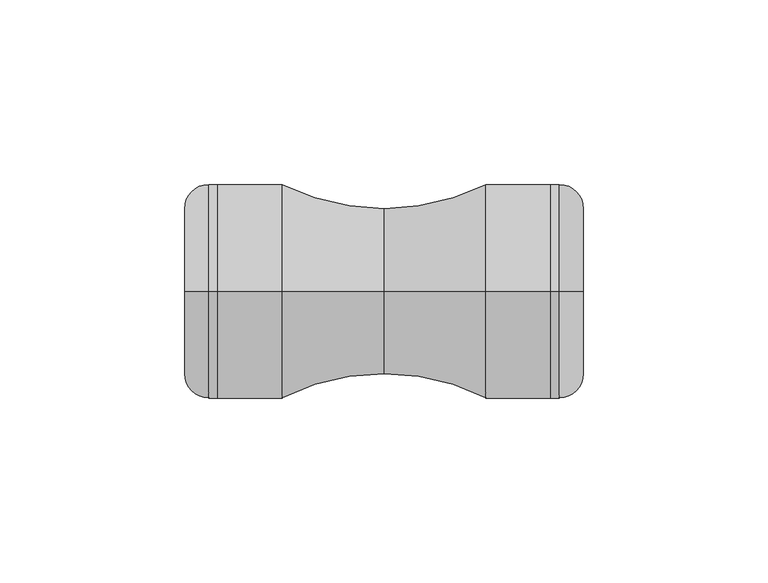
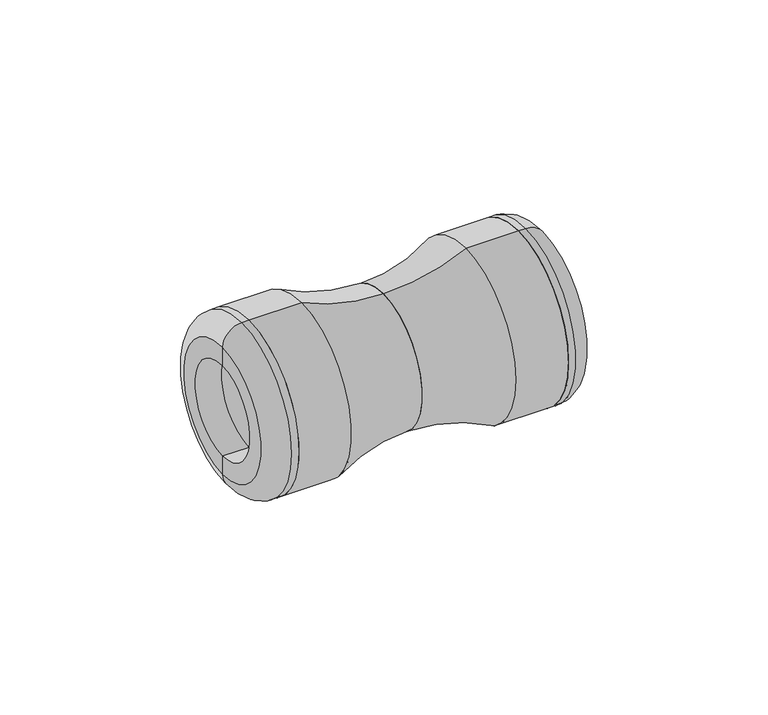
"""IFC4 building model written with IfcOpenShell, lengths in millimetres: pipe fitting geometry, Plumbing_Pipe-Fittings_Plasson_Coupler_1001 : Plumbing_Pipe-Fittings_Plasson_Coupler_1001."""

from ifc_helpers import new_model, si_unit, point, frame, origin, place, context, project, spatial, polyline, circle_curve, ellipse_curve, trimmed, source, transform, mapped, element, save
from ifc_brep_helpers import plane_surface, cylinder_surface, revolved_surface, advanced_brep


def pipe_fitting_73e57031(model_context):
    return source(origin(), model_context, "Body", "AdvancedBrep", [
        advanced_brep(
        [(54.0, 0.0, -16.0), (54.0, 0.0, 16.0), (45.1666667, 0.0, 16.0), (45.1666667, 0.0, -16.0), (54.0, 0.0, -22.5), (54.0, 0.0, 22.5), (47.5, 0.0, -29.0), (47.5, 0.0, 29.0), (45.1666667, 0.0, -29.0), (45.1666667, 0.0, 29.0)],
        [
            (0, 1, circle_curve(frame((54.0, 0.0, 0.0), z_axis=(1.0, 0.0, 0.0), x_axis=(0.0, 0.0, 1.0)), 16.0)),
            (1, 2),
            (2, 3, circle_curve(frame((45.1666667, 0.0, 0.0), z_axis=(-1.0, 0.0, 0.0), x_axis=(0.0, 0.0, 1.0)), 16.0)),
            (3, 0),
            (1, 0, circle_curve(frame((54.0, 0.0, 0.0), z_axis=(1.0, 0.0, 0.0), x_axis=(0.0, 0.0, 1.0)), 16.0)),
            (3, 2, circle_curve(frame((45.1666667, 0.0, 0.0), z_axis=(-1.0, 0.0, 0.0), x_axis=(0.0, 0.0, 1.0)), 16.0)),
            (4, 5, circle_curve(frame((54.0, 0.0, 0.0), z_axis=(1.0, 0.0, 0.0), x_axis=(0.0, 0.0, 1.0)), 22.5)),
            (5, 1),
            (0, 4),
            (5, 4, circle_curve(frame((54.0, 0.0, 0.0), z_axis=(1.0, 0.0, 0.0), x_axis=(0.0, 0.0, 1.0)), 22.5)),
            (6, 7, circle_curve(frame((47.5, 0.0, 0.0), z_axis=(1.0, 0.0, 0.0), x_axis=(0.0, 0.0, 1.0)), 29.0)),
            (7, 5, circle_curve(frame((47.5, 0.0, 22.5), z_axis=(0.0, 1.0, 0.0), x_axis=(1.0, 0.0, 0.0)), 6.5)),
            (4, 6, circle_curve(frame((47.5, 0.0, -22.5), z_axis=(0.0, 1.0, 0.0), x_axis=(1.0, 0.0, 0.0)), 6.5)),
            (7, 6, circle_curve(frame((47.5, 0.0, 0.0), z_axis=(1.0, 0.0, 0.0), x_axis=(0.0, 0.0, 1.0)), 29.0)),
            (8, 9, circle_curve(frame((45.1666667, 0.0, 0.0), z_axis=(1.0, 0.0, 0.0), x_axis=(0.0, 0.0, 1.0)), 29.0)),
            (9, 7),
            (6, 8),
            (9, 8, circle_curve(frame((45.1666667, 0.0, 0.0), z_axis=(1.0, 0.0, 0.0), x_axis=(0.0, 0.0, 1.0)), 29.0)),
            (2, 9),
            (8, 3),
        ],
        [
            revolved_surface(polyline([(45.1666667, 0.0, 16.0), (54.0, 0.0, 16.0)]), (33.9471637, 0.0, 0.0), (-1.0, 0.0, 0.0)),
            plane_surface(frame((54.0, 0.0, 0.0), z_axis=(1.0, 0.0, 0.0), x_axis=(0.0, 0.0, 1.0))),
            revolved_surface(trimmed(ellipse_curve(frame((47.5, 0.0, 22.5), z_axis=(0.0, -1.0, 0.0), x_axis=(1.0, 0.0, 0.0)), 6.5, 6.5), [point((54.0, 0.0, 22.5))], [point((47.5, 0.0, 29.0))], True, "CARTESIAN"), (33.9471637, 0.0, 0.0), (-1.0, 0.0, 0.0)),
            cylinder_surface(frame((33.9471637, 0.0, 0.0), z_axis=(-1.0, 0.0, 0.0), x_axis=(0.0, 0.0, 1.0)), 29.0),
            plane_surface(frame((45.1666667, 0.0, 0.0), z_axis=(-1.0, 0.0, 0.0), x_axis=(0.0, 0.0, 1.0))),
        ],
        [
            (0, [[1, 2, 3, 4]]),
            (0, [[5, -4, 6, -2]]),
            (1, [[7, 8, -1, 9]]),
            (1, [[10, -9, -5, -8]]),
            (2, [[11, 12, -7, 13]]),
            (2, [[14, -13, -10, -12]]),
            (3, [[15, 16, -11, 17]]),
            (3, [[18, -17, -14, -16]]),
            (4, [[-3, 19, -15, 20]]),
            (4, [[-6, -20, -18, -19]]),
        ],
    ),
        advanced_brep(
        [(-45.1666667, 0.0, -29.0), (-45.1666667, 0.0, 29.0), (-45.1666667, 0.0, 16.0), (-45.1666667, 0.0, -16.0), (-47.5, 0.0, -29.0), (-47.5, 0.0, 29.0), (-54.0, 0.0, -22.5), (-54.0, 0.0, 22.5), (-54.0, 0.0, -16.0), (-54.0, 0.0, 16.0)],
        [
            (0, 1, circle_curve(frame((-45.1666667, 0.0, 0.0), z_axis=(1.0, 0.0, 0.0), x_axis=(0.0, 0.0, 1.0)), 29.0)),
            (1, 2),
            (2, 3, circle_curve(frame((-45.1666667, 0.0, 0.0), z_axis=(-1.0, 0.0, 0.0), x_axis=(0.0, 0.0, 1.0)), 16.0)),
            (3, 0),
            (1, 0, circle_curve(frame((-45.1666667, 0.0, 0.0), z_axis=(1.0, 0.0, 0.0), x_axis=(0.0, 0.0, 1.0)), 29.0)),
            (3, 2, circle_curve(frame((-45.1666667, 0.0, 0.0), z_axis=(-1.0, 0.0, 0.0), x_axis=(0.0, 0.0, 1.0)), 16.0)),
            (4, 5, circle_curve(frame((-47.5, 0.0, 0.0), z_axis=(1.0, 0.0, 0.0), x_axis=(0.0, 0.0, 1.0)), 29.0)),
            (5, 1),
            (0, 4),
            (5, 4, circle_curve(frame((-47.5, 0.0, 0.0), z_axis=(1.0, 0.0, 0.0), x_axis=(0.0, 0.0, 1.0)), 29.0)),
            (6, 7, circle_curve(frame((-54.0, 0.0, 0.0), z_axis=(1.0, 0.0, 0.0), x_axis=(0.0, 0.0, 1.0)), 22.5)),
            (7, 5, circle_curve(frame((-47.5, 0.0, 22.5), z_axis=(0.0, 1.0, 0.0), x_axis=(1.0, 0.0, 0.0)), 6.5)),
            (4, 6, circle_curve(frame((-47.5, 0.0, -22.5), z_axis=(0.0, 1.0, 0.0), x_axis=(1.0, 0.0, 0.0)), 6.5)),
            (7, 6, circle_curve(frame((-54.0, 0.0, 0.0), z_axis=(1.0, 0.0, 0.0), x_axis=(0.0, 0.0, 1.0)), 22.5)),
            (8, 9, circle_curve(frame((-54.0, 0.0, 0.0), z_axis=(1.0, 0.0, 0.0), x_axis=(0.0, 0.0, 1.0)), 16.0)),
            (9, 7),
            (6, 8),
            (9, 8, circle_curve(frame((-54.0, 0.0, 0.0), z_axis=(1.0, 0.0, 0.0), x_axis=(0.0, 0.0, 1.0)), 16.0)),
            (2, 9),
            (8, 3),
        ],
        [
            plane_surface(frame((-45.1666667, 0.0, 0.0), z_axis=(1.0, 0.0, 0.0), x_axis=(0.0, 0.0, 1.0))),
            cylinder_surface(frame((-59.0, 0.0, 0.0), z_axis=(-1.0, 0.0, 0.0), x_axis=(0.0, 0.0, 1.0)), 29.0),
            revolved_surface(trimmed(ellipse_curve(frame((-47.5, 0.0, 22.5), z_axis=(0.0, -1.0, 0.0), x_axis=(1.0, 0.0, 0.0)), 6.5, 6.5), [point((-47.5, 0.0, 29.0))], [point((-54.0, 0.0, 22.5))], True, "CARTESIAN"), (-59.0, 0.0, 0.0), (-1.0, 0.0, 0.0)),
            plane_surface(frame((-54.0, 0.0, 0.0), z_axis=(-1.0, 0.0, 0.0), x_axis=(0.0, 0.0, 1.0))),
            revolved_surface(polyline([(-54.0, 0.0, 16.0), (-45.1666667, 0.0, 16.0)]), (-59.0, 0.0, 0.0), (-1.0, 0.0, 0.0)),
        ],
        [
            (0, [[1, 2, 3, 4]]),
            (0, [[5, -4, 6, -2]]),
            (1, [[7, 8, -1, 9]]),
            (1, [[10, -9, -5, -8]]),
            (2, [[11, 12, -7, 13]]),
            (2, [[14, -13, -10, -12]]),
            (3, [[15, 16, -11, 17]]),
            (3, [[18, -17, -14, -16]]),
            (4, [[-3, 19, -15, 20]]),
            (4, [[-6, -20, -18, -19]]),
        ],
    ),
        advanced_brep(
        [(27.5, 0.0, -29.0), (27.5, 0.0, 29.0), (45.1666667, 0.0, 29.0), (45.1666667, 0.0, -29.0), (0.0, 0.0, -22.5), (0.0, 0.0, 22.5), (0.0, 0.0, -14.0), (0.0, 0.0, 14.0), (1.0, 0.0, -14.0), (1.0, 0.0, 14.0), (1.0, 0.0, -16.0), (1.0, 0.0, 16.0), (45.1666667, 0.0, -16.0), (45.1666667, 0.0, 16.0)],
        [
            (0, 1, circle_curve(frame((27.5, 0.0, 0.0), z_axis=(1.0, 0.0, 0.0), x_axis=(0.0, 0.0, 1.0)), 29.0)),
            (1, 2),
            (2, 3, circle_curve(frame((45.1666667, 0.0, 0.0), z_axis=(-1.0, 0.0, 0.0), x_axis=(0.0, 0.0, 1.0)), 29.0)),
            (3, 0),
            (1, 0, circle_curve(frame((27.5, 0.0, 0.0), z_axis=(1.0, 0.0, 0.0), x_axis=(0.0, 0.0, 1.0)), 29.0)),
            (3, 2, circle_curve(frame((45.1666667, 0.0, 0.0), z_axis=(-1.0, 0.0, 0.0), x_axis=(0.0, 0.0, 1.0)), 29.0)),
            (4, 5, circle_curve(frame((0.0, 0.0, 0.0), z_axis=(1.0, 0.0, 0.0), x_axis=(0.0, 0.0, 1.0)), 22.5)),
            (5, 1, circle_curve(frame((0.0, 0.0, 83.9230769), z_axis=(0.0, -1.0, 0.0), x_axis=(1.0, 0.0, 0.0)), 61.4230769)),
            (0, 4, circle_curve(frame((0.0, 0.0, -83.9230769), z_axis=(0.0, -1.0, 0.0), x_axis=(1.0, 0.0, 0.0)), 61.4230769)),
            (5, 4, circle_curve(frame((0.0, 0.0, 0.0), z_axis=(1.0, 0.0, 0.0), x_axis=(0.0, 0.0, 1.0)), 22.5)),
            (6, 7, circle_curve(frame((0.0, 0.0, 0.0), z_axis=(1.0, 0.0, 0.0), x_axis=(0.0, 0.0, 1.0)), 14.0)),
            (7, 5),
            (4, 6),
            (7, 6, circle_curve(frame((0.0, 0.0, 0.0), z_axis=(1.0, 0.0, 0.0), x_axis=(0.0, 0.0, 1.0)), 14.0)),
            (8, 9, circle_curve(frame((1.0, 0.0, 0.0), z_axis=(1.0, 0.0, 0.0), x_axis=(0.0, 0.0, 1.0)), 14.0)),
            (9, 7),
            (6, 8),
            (9, 8, circle_curve(frame((1.0, 0.0, 0.0), z_axis=(1.0, 0.0, 0.0), x_axis=(0.0, 0.0, 1.0)), 14.0)),
            (10, 11, circle_curve(frame((1.0, 0.0, 0.0), z_axis=(1.0, 0.0, 0.0), x_axis=(0.0, 0.0, 1.0)), 16.0)),
            (11, 9),
            (8, 10),
            (11, 10, circle_curve(frame((1.0, 0.0, 0.0), z_axis=(1.0, 0.0, 0.0), x_axis=(0.0, 0.0, 1.0)), 16.0)),
            (12, 13, circle_curve(frame((45.1666667, 0.0, 0.0), z_axis=(1.0, 0.0, 0.0), x_axis=(0.0, 0.0, 1.0)), 16.0)),
            (13, 11),
            (10, 12),
            (13, 12, circle_curve(frame((45.1666667, 0.0, 0.0), z_axis=(1.0, 0.0, 0.0), x_axis=(0.0, 0.0, 1.0)), 16.0)),
            (2, 13),
            (12, 3),
        ],
        [
            cylinder_surface(frame((-10.0, 0.0, 0.0), z_axis=(-1.0, 0.0, 0.0), x_axis=(0.0, 0.0, 1.0)), 29.0),
            revolved_surface(trimmed(ellipse_curve(frame((0.0, 0.0, 83.9230769), z_axis=(0.0, 1.0, 0.0), x_axis=(1.0, 0.0, 0.0)), 61.4230769, 61.4230769), [point((27.5, 0.0, 29.0))], [point((0.0, 0.0, 22.5))], True, "CARTESIAN"), (-10.0, 0.0, 0.0), (-1.0, 0.0, 0.0)),
            plane_surface(frame((0.0, 0.0, 0.0), z_axis=(-1.0, 0.0, 0.0), x_axis=(0.0, 0.0, 1.0))),
            revolved_surface(polyline([(0.0, 0.0, 14.0), (1.0, 0.0, 14.0)]), (-10.0, 0.0, 0.0), (-1.0, 0.0, 0.0)),
            plane_surface(frame((1.0, 0.0, 0.0), z_axis=(1.0, 0.0, 0.0), x_axis=(0.0, 0.0, 1.0))),
            revolved_surface(polyline([(1.0, 0.0, 16.0), (45.1666667, 0.0, 16.0)]), (-10.0, 0.0, 0.0), (-1.0, 0.0, 0.0)),
            plane_surface(frame((45.1666667, 0.0, 0.0), z_axis=(1.0, 0.0, 0.0), x_axis=(0.0, 0.0, 1.0))),
        ],
        [
            (0, [[1, 2, 3, 4]]),
            (0, [[5, -4, 6, -2]]),
            (1, [[7, 8, -1, 9]]),
            (1, [[10, -9, -5, -8]]),
            (2, [[11, 12, -7, 13]]),
            (2, [[14, -13, -10, -12]]),
            (3, [[15, 16, -11, 17]]),
            (3, [[18, -17, -14, -16]]),
            (4, [[19, 20, -15, 21]]),
            (4, [[22, -21, -18, -20]]),
            (5, [[23, 24, -19, 25]]),
            (5, [[26, -25, -22, -24]]),
            (6, [[-3, 27, -23, 28]]),
            (6, [[-6, -28, -26, -27]]),
        ],
    ),
        advanced_brep(
        [(-45.1666667, 0.0, -16.0), (-45.1666667, 0.0, 16.0), (-45.1666667, 0.0, 29.0), (-45.1666667, 0.0, -29.0), (-1.0, 0.0, -16.0), (-1.0, 0.0, 16.0), (-1.0, 0.0, -14.0), (-1.0, 0.0, 14.0), (0.0, 0.0, -14.0), (0.0, 0.0, 14.0), (0.0, 0.0, -22.5), (0.0, 0.0, 22.5), (-27.5, 0.0, -29.0), (-27.5, 0.0, 29.0)],
        [
            (0, 1, circle_curve(frame((-45.1666667, 0.0, 0.0), z_axis=(1.0, 0.0, 0.0), x_axis=(0.0, 0.0, 1.0)), 16.0)),
            (1, 2),
            (2, 3, circle_curve(frame((-45.1666667, 0.0, 0.0), z_axis=(-1.0, 0.0, 0.0), x_axis=(0.0, 0.0, 1.0)), 29.0)),
            (3, 0),
            (1, 0, circle_curve(frame((-45.1666667, 0.0, 0.0), z_axis=(1.0, 0.0, 0.0), x_axis=(0.0, 0.0, 1.0)), 16.0)),
            (3, 2, circle_curve(frame((-45.1666667, 0.0, 0.0), z_axis=(-1.0, 0.0, 0.0), x_axis=(0.0, 0.0, 1.0)), 29.0)),
            (4, 5, circle_curve(frame((-1.0, 0.0, 0.0), z_axis=(1.0, 0.0, 0.0), x_axis=(0.0, 0.0, 1.0)), 16.0)),
            (5, 1),
            (0, 4),
            (5, 4, circle_curve(frame((-1.0, 0.0, 0.0), z_axis=(1.0, 0.0, 0.0), x_axis=(0.0, 0.0, 1.0)), 16.0)),
            (6, 7, circle_curve(frame((-1.0, 0.0, 0.0), z_axis=(1.0, 0.0, 0.0), x_axis=(0.0, 0.0, 1.0)), 14.0)),
            (7, 5),
            (4, 6),
            (7, 6, circle_curve(frame((-1.0, 0.0, 0.0), z_axis=(1.0, 0.0, 0.0), x_axis=(0.0, 0.0, 1.0)), 14.0)),
            (8, 9, circle_curve(frame((0.0, 0.0, 0.0), z_axis=(1.0, 0.0, 0.0), x_axis=(0.0, 0.0, 1.0)), 14.0)),
            (9, 7),
            (6, 8),
            (9, 8, circle_curve(frame((0.0, 0.0, 0.0), z_axis=(1.0, 0.0, 0.0), x_axis=(0.0, 0.0, 1.0)), 14.0)),
            (10, 11, circle_curve(frame((0.0, 0.0, 0.0), z_axis=(1.0, 0.0, 0.0), x_axis=(0.0, 0.0, 1.0)), 22.5)),
            (11, 9),
            (8, 10),
            (11, 10, circle_curve(frame((0.0, 0.0, 0.0), z_axis=(1.0, 0.0, 0.0), x_axis=(0.0, 0.0, 1.0)), 22.5)),
            (12, 13, circle_curve(frame((-27.5, 0.0, 0.0), z_axis=(1.0, 0.0, 0.0), x_axis=(0.0, 0.0, 1.0)), 29.0)),
            (13, 11, circle_curve(frame((0.0, 0.0, 83.9230769), z_axis=(0.0, -1.0, 0.0), x_axis=(1.0, 0.0, 0.0)), 61.4230769)),
            (10, 12, circle_curve(frame((0.0, 0.0, -83.9230769), z_axis=(0.0, -1.0, 0.0), x_axis=(1.0, 0.0, 0.0)), 61.4230769)),
            (13, 12, circle_curve(frame((-27.5, 0.0, 0.0), z_axis=(1.0, 0.0, 0.0), x_axis=(0.0, 0.0, 1.0)), 29.0)),
            (2, 13),
            (12, 3),
        ],
        [
            plane_surface(frame((-45.1666667, 0.0, 0.0), z_axis=(-1.0, 0.0, 0.0), x_axis=(0.0, 0.0, 1.0))),
            revolved_surface(polyline([(-45.1666667, 0.0, 16.0), (-1.0, 0.0, 16.0)]), (-45.1666667, 0.0, 0.0), (-1.0, 0.0, 0.0)),
            plane_surface(frame((-1.0, 0.0, 0.0), z_axis=(-1.0, 0.0, 0.0), x_axis=(0.0, 0.0, 1.0))),
            revolved_surface(polyline([(-1.0, 0.0, 14.0), (0.0, 0.0, 14.0)]), (-45.1666667, 0.0, 0.0), (-1.0, 0.0, 0.0)),
            plane_surface(frame((0.0, 0.0, 0.0), z_axis=(1.0, 0.0, 0.0), x_axis=(0.0, 0.0, 1.0))),
            revolved_surface(trimmed(ellipse_curve(frame((0.0, 0.0, 83.9230769), z_axis=(0.0, 1.0, 0.0), x_axis=(1.0, 0.0, 0.0)), 61.4230769, 61.4230769), [point((0.0, 0.0, 22.5))], [point((-27.5, 0.0, 29.0))], True, "CARTESIAN"), (-45.1666667, 0.0, 0.0), (-1.0, 0.0, 0.0)),
            cylinder_surface(frame((-45.1666667, 0.0, 0.0), z_axis=(-1.0, 0.0, 0.0), x_axis=(0.0, 0.0, 1.0)), 29.0),
        ],
        [
            (0, [[1, 2, 3, 4]]),
            (0, [[5, -4, 6, -2]]),
            (1, [[7, 8, -1, 9]]),
            (1, [[10, -9, -5, -8]]),
            (2, [[11, 12, -7, 13]]),
            (2, [[14, -13, -10, -12]]),
            (3, [[15, 16, -11, 17]]),
            (3, [[18, -17, -14, -16]]),
            (4, [[19, 20, -15, 21]]),
            (4, [[22, -21, -18, -20]]),
            (5, [[23, 24, -19, 25]]),
            (5, [[26, -25, -22, -24]]),
            (6, [[-3, 27, -23, 28]]),
            (6, [[-6, -28, -26, -27]]),
        ],
    ),
    ])


if __name__ == "__main__":
    model = new_model("IFC4")
    model_context = context("Model", 3, world=origin())
    ifc_project = project(units=[si_unit("LENGTHUNIT", "METRE", prefix="MILLI")], contexts=[model_context])
    site = spatial("IfcSite", under=ifc_project)
    building = spatial("IfcBuilding", under=site)
    placement = place(None, origin())
    pipe_fitting_shape = pipe_fitting_73e57031(model_context)
    element("IfcPipeFitting", 1, ObjectType="Plumbing_Pipe-Fittings_Plasson_Coupler_1001 : Plumbing_Pipe-Fittings_Plasson_Coupler_1001", at=placement, inside=building, context=model_context, shape_type="MappedRepresentation", body=[
        mapped(pipe_fitting_shape, transform((0.0, 0.0, 0.0), x_axis=(1.0, 0.0, 0.0), y_axis=(0.0, 1.0, 0.0), z_axis=(0.0, 0.0, 1.0))),
    ])
    save(model, "model.ifc")
